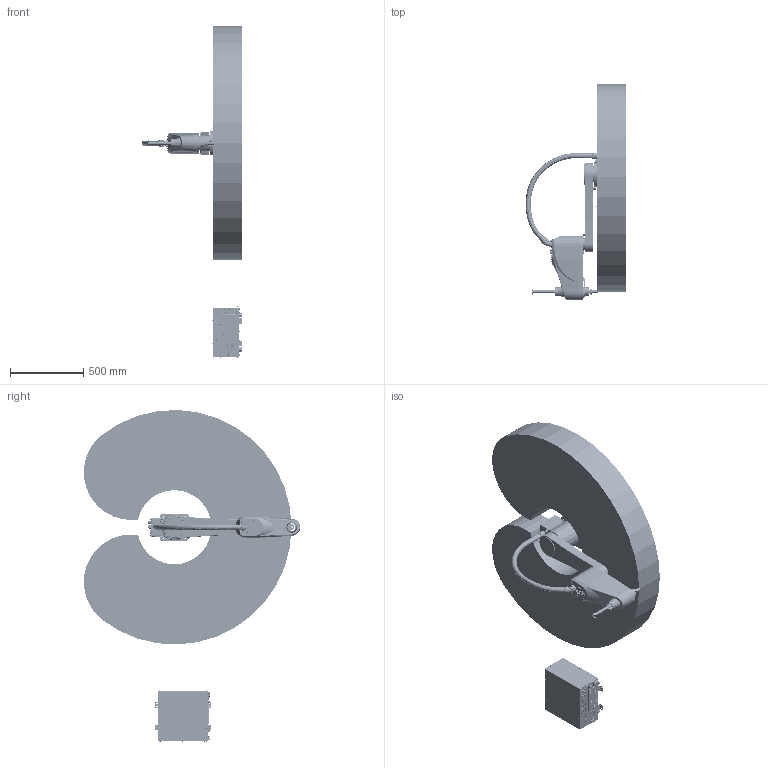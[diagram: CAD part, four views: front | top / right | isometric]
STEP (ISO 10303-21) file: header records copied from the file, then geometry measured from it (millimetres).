
FILE_DESCRIPTION (( 'STEP AP203' ), '1' );
FILE_NAME ('TRH005-800-200-S-12211103-WX3D.STEP', '2024-12-25T08:21:28', ( 'Windows User' ), ( 'P R C' ), 'SwSTEP 2.0', 'SolidWorks 2023', '' );
FILE_SCHEMA (( 'CONFIG_CONTROL_DESIGN' ));
Products named in the file (8): 复件 800底座^TRH005-800-200-S-12211103-WX3D; 复件 小臂模块^TRH005-800-200-S-12211103-WX3D; TRH005-800-200-S-12211103-WX3D; 复件 复件 TRH005-800-170-C-12203 运动范围^TRH005-800-200-S-12211103-WX3D; 复件  TRH0580-3-02_1大臂模块1^TRH005-800-200-S-12211103-WX3D; 复件 复件 800 45度弯头波纹管^TRH005-800-200-S-12211103-WX3D; 复件  丝杆^TRH005-800-200-S-12211103-WX3D; 复件 TRC04-040-S-1101^TRH005-800-200-S-12211103-WX3D
Assembly tree (7 placements, depth 2):
  TRH005-800-200-S-12211103-WX3D
    复件 小臂模块^TRH005-800-200-S-12211103-WX3D
    复件  TRH0580-3-02_1大臂模块1^TRH005-800-200-S-12211103-WX3D
    复件  丝杆^TRH005-800-200-S-12211103-WX3D
    复件 800底座^TRH005-800-200-S-12211103-WX3D
    复件 复件 TRH005-800-170-C-12203 运动范围^TRH005-800-200-S-12211103-WX3D
    复件 复件 800 45度弯头波纹管^TRH005-800-200-S-12211103-WX3D
    复件 TRC04-040-S-1101^TRH005-800-200-S-12211103-WX3D
Bounding box: 686.65 x 1476.19 x 2264.84 mm (x, y, z)
Volume: 319612521.4 mm3; surface area: 6956152.3 mm2
Topology: 2 solids, 481 shells, 7352 faces, 33518 edges, 26132 vertices
Faces by surface type: plane 3809, cylinder 2246, cone 599, bspline 397, torus 266, sphere 35
Entity records: 418261 total; most frequent: CARTESIAN_POINT 157508, DIRECTION 50231, ORIENTED_EDGE 47574, EDGE_CURVE 33444, VERTEX_POINT 26132, LINE 20577, VECTOR 20577, AXIS2_PLACEMENT_3D 14827
